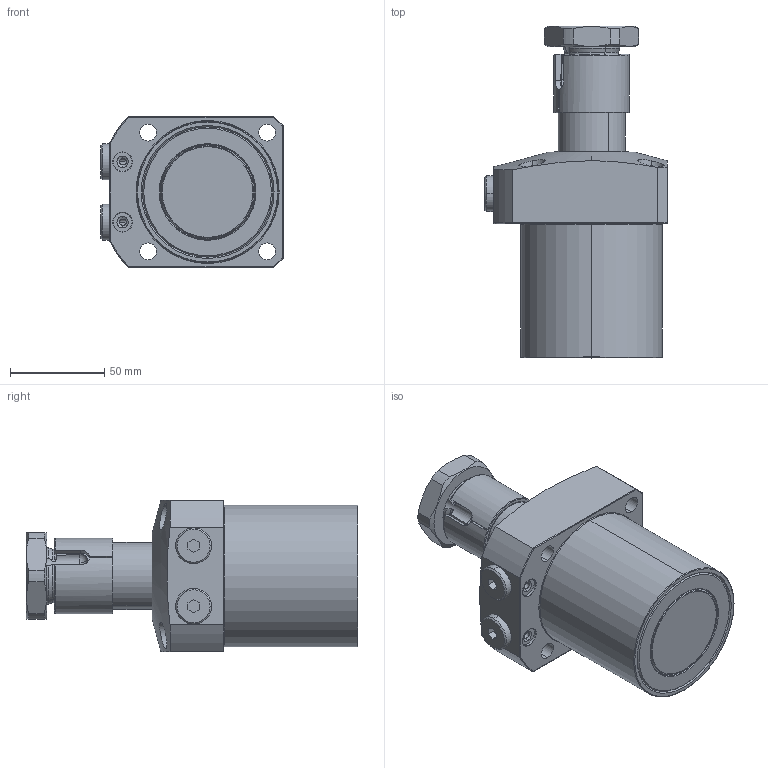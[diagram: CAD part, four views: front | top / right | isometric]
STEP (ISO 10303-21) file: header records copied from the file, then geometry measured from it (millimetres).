
FILE_DESCRIPTION(/* description */ (''),/* implementation_level */ '2;1');
FILE_NAME(/* name */ 'KTRC75-RN30.stp',/* time_stamp */ '2022-11-18T09:28:36+08:00',/* author */ (''),/* organization */ (''),/* preprocessor_version */ 'ST-DEVELOPER v16.7',/* originating_system */ 'SIEMENS PLM Software NX 12.0',/* authorisation */ '');
FILE_SCHEMA (('AP203_CONFIGURATION_CONTROLLED_3D_DESIGN_OF_MECHANICAL_PARTS_AND_ASSEMBLIES_MIM_LF { 1 0 10303 403 2 1 2}'));
Length unit declared in the file: millimetre
Products named in the file (7): KTRC75-RN30-05; KTRC75-RN30-04; KTRC75-RN30-01; KTRC75-RN30-02; KTRC75-RN30-03; KTRC75-RN30-06; LHA0750-CL-Y30_step
Assembly tree (7 placements, depth 2):
  LHA0750-CL-Y30_step
    KTRC75-RN30-06  x2
    KTRC75-RN30-03
    KTRC75-RN30-02
    KTRC75-RN30-01
    KTRC75-RN30-04
    KTRC75-RN30-05
Bounding box: 96.5 x 175.7 x 80 mm (x, y, z)
Volume: 633333 mm3; surface area: 76886.1 mm2
Topology: 7 solids, 7 shells, 238 faces, 559 edges, 349 vertices
Faces by surface type: cylinder 81, plane 80, cone 51, torus 24, sphere 2
Entity records: 7920 total; most frequent: CARTESIAN_POINT 1917, DIRECTION 1119, ORIENTED_EDGE 1058, EDGE_CURVE 529, AXIS2_PLACEMENT_3D 459, VERTEX_POINT 331, EDGE_LOOP 254, CIRCLE 226
